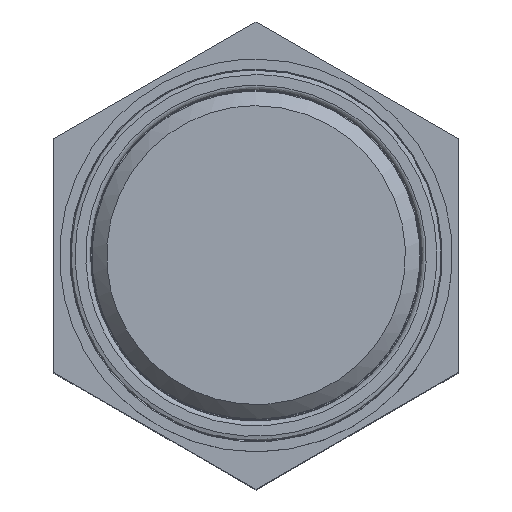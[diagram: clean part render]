
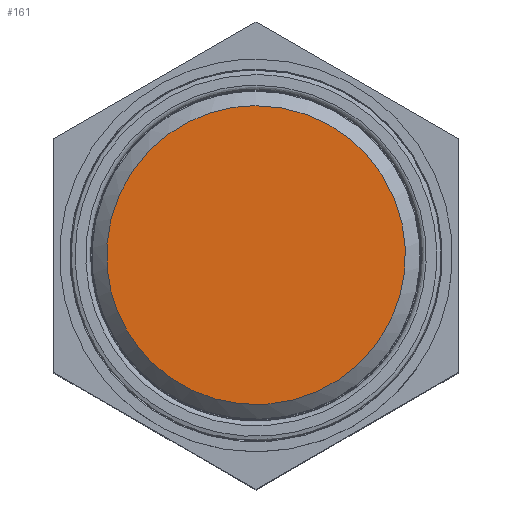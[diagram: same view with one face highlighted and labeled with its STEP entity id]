
A CAD part, top view. The second image highlights one B-rep face of the part: STEP entity #161.
In plain terms, the highlighted free-form (B-spline) face has degree [1, 1] with [2, 2] control points.
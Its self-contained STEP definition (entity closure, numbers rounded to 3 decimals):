
#135=CARTESIAN_POINT('F21',(15.826,-35.148,
   18.0));
#136=CARTESIAN_POINT('F21',(15.826,-1.829,
   18.0));
#137=CARTESIAN_POINT('F21',(-17.493,-35.148,
   18.0));
#138=CARTESIAN_POINT('F21',(-17.493,-1.829,
   18.0));
#139=QUASI_UNIFORM_SURFACE('F21',1,1,((#135,#137),(#136,#138)),
   .PLANE_SURF.,.F.,.F.,.U.);
#140=CARTESIAN_POINT('V29',(-0.833,-3.343,
   18.0));
#141=VERTEX_POINT('V29',#140);
#142=CARTESIAN_POINT('E44',(-0.833,-3.343,
   18.0));
#143=CARTESIAN_POINT('E44',(25.399,-3.343,
   18.0));
#144=CARTESIAN_POINT('E44',(12.283,-26.061,
   18.0));
#145=CARTESIAN_POINT('E44',(-0.833,-48.778,
   18.0));
#146=CARTESIAN_POINT('E44',(-13.949,-26.061,
   18.0));
#147=CARTESIAN_POINT('E44',(-27.065,-3.343,
   18.0));
#148=CARTESIAN_POINT('E44',(-0.833,-3.343,
   18.0));
#156=(BOUNDED_CURVE()B_SPLINE_CURVE(2,(#142,#143,#144,#145,#146,
   #147,#148),.CIRCULAR_ARC.,.T.,.U.)B_SPLINE_CURVE_WITH_KNOTS((3,
   2,2,3),(0.0,26.291,52.581,
   78.872),.UNSPECIFIED.)CURVE()
   GEOMETRIC_REPRESENTATION_ITEM()RATIONAL_B_SPLINE_CURVE((1.0,
   0.5,1.0,0.5,1.0,0.5,1.0)
   )REPRESENTATION_ITEM('E44'));
#157=EDGE_CURVE('E44',#141,#141,#156,.T.);
#158=ORIENTED_EDGE('E44',*,*,#157,.F.);
#159=EDGE_LOOP('F21',(#158));
#160=FACE_OUTER_BOUND('F21',#159,.T.);
#161=ADVANCED_FACE('F21',(#160),#139,.T.);
